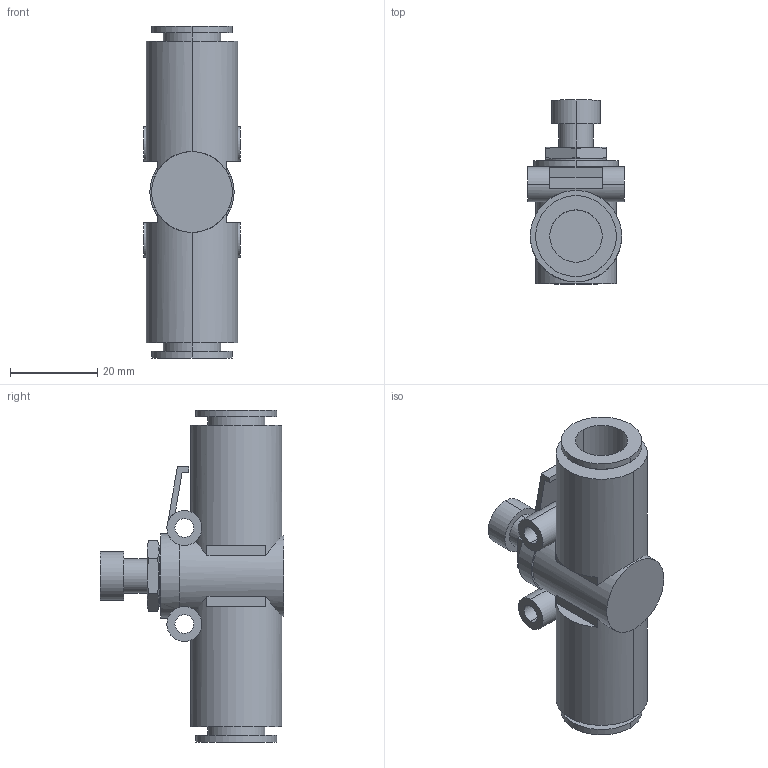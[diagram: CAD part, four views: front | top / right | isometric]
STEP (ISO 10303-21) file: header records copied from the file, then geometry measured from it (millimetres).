
FILE_DESCRIPTION( ( '' ), '1' );
FILE_NAME( 'G:/SMC狟婥/AS3002F-12.stp', '2023-03-07T04:00:33', ( '' ), ( '' ), ' ', ' ', ' ' );
FILE_SCHEMA( ( 'CONFIG_CONTROL_DESIGN' ) );
Length unit declared in the file: millimetre
Products named in the file (1): 1
Bounding box: 22.1 x 42.1 x 76 mm (x, y, z)
Volume: 24968.5 mm3; surface area: 10640.9 mm2
Topology: 1 solids, 1 shells, 79 faces, 198 edges, 132 vertices
Faces by surface type: plane 41, cylinder 34, cone 4
Entity records: 3116 total; most frequent: CARTESIAN_POINT 1166, DIRECTION 402, ORIENTED_EDGE 396, EDGE_CURVE 198, AXIS2_PLACEMENT_3D 160, VERTEX_POINT 132, EDGE_LOOP 94, LINE 82
